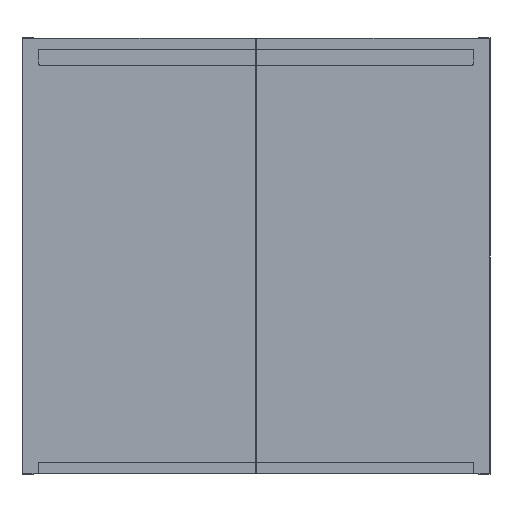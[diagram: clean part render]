
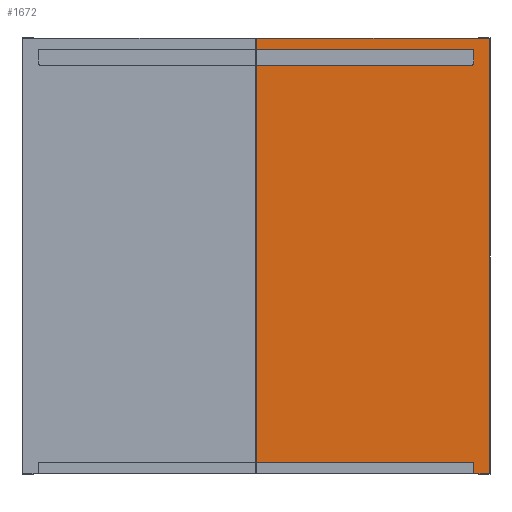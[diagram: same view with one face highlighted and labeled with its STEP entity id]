
A CAD part, front view. The second image highlights one B-rep face of the part: STEP entity #1672.
In plain terms, the highlighted planar face has unit normal (0, -1, 0).
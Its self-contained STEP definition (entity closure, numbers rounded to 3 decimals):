
#23=CIRCLE('',#1777,3.);
#24=CIRCLE('',#1780,3.);
#26=CIRCLE('',#1786,3.);
#101=FACE_OUTER_BOUND('',#189,.T.);
#189=EDGE_LOOP('',(#1320,#1321,#1322,#1323,#1324,#1325,#1326,#1327,#1328,
#1329,#1330,#1331,#1332));
#355=LINE('',#2520,#565);
#357=LINE('',#2525,#567);
#360=LINE('',#2533,#570);
#368=LINE('',#2553,#578);
#369=LINE('',#2557,#579);
#372=LINE('',#2563,#582);
#373=LINE('',#2565,#583);
#374=LINE('',#2567,#584);
#375=LINE('',#2569,#585);
#376=LINE('',#2570,#586);
#565=VECTOR('',#2073,10.);
#567=VECTOR('',#2077,10.);
#570=VECTOR('',#2086,10.);
#578=VECTOR('',#2104,10.);
#579=VECTOR('',#2107,10.);
#582=VECTOR('',#2116,10.);
#583=VECTOR('',#2117,10.);
#584=VECTOR('',#2118,10.);
#585=VECTOR('',#2119,10.);
#586=VECTOR('',#2120,10.);
#729=VERTEX_POINT('',#2516);
#730=VERTEX_POINT('',#2518);
#731=VERTEX_POINT('',#2522);
#732=VERTEX_POINT('',#2524);
#733=VERTEX_POINT('',#2528);
#734=VERTEX_POINT('',#2532);
#740=VERTEX_POINT('',#2549);
#741=VERTEX_POINT('',#2551);
#742=VERTEX_POINT('',#2555);
#743=VERTEX_POINT('',#2556);
#744=VERTEX_POINT('',#2564);
#745=VERTEX_POINT('',#2566);
#746=VERTEX_POINT('',#2568);
#925=EDGE_CURVE('',#729,#730,#355,.T.);
#927=EDGE_CURVE('',#732,#731,#357,.T.);
#929=EDGE_CURVE('',#733,#732,#23,.T.);
#931=EDGE_CURVE('',#734,#733,#360,.T.);
#933=EDGE_CURVE('',#730,#734,#24,.T.);
#941=EDGE_CURVE('',#740,#741,#368,.T.);
#942=EDGE_CURVE('',#742,#743,#369,.T.);
#945=EDGE_CURVE('',#741,#742,#26,.T.);
#946=EDGE_CURVE('',#731,#740,#372,.T.);
#947=EDGE_CURVE('',#743,#744,#373,.T.);
#948=EDGE_CURVE('',#745,#744,#374,.T.);
#949=EDGE_CURVE('',#746,#745,#375,.T.);
#950=EDGE_CURVE('',#746,#729,#376,.T.);
#1320=ORIENTED_EDGE('',*,*,#925,.T.);
#1321=ORIENTED_EDGE('',*,*,#933,.T.);
#1322=ORIENTED_EDGE('',*,*,#931,.T.);
#1323=ORIENTED_EDGE('',*,*,#929,.T.);
#1324=ORIENTED_EDGE('',*,*,#927,.T.);
#1325=ORIENTED_EDGE('',*,*,#946,.T.);
#1326=ORIENTED_EDGE('',*,*,#941,.T.);
#1327=ORIENTED_EDGE('',*,*,#945,.T.);
#1328=ORIENTED_EDGE('',*,*,#942,.T.);
#1329=ORIENTED_EDGE('',*,*,#947,.T.);
#1330=ORIENTED_EDGE('',*,*,#948,.F.);
#1331=ORIENTED_EDGE('',*,*,#949,.F.);
#1332=ORIENTED_EDGE('',*,*,#950,.T.);
#1504=PLANE('',#1787);
#1672=ADVANCED_FACE('',(#101),#1504,.T.);
#1777=AXIS2_PLACEMENT_3D('',#2529,#2081,#2082);
#1780=AXIS2_PLACEMENT_3D('',#2536,#2090,#2091);
#1786=AXIS2_PLACEMENT_3D('',#2561,#2112,#2113);
#1787=AXIS2_PLACEMENT_3D('',#2562,#2114,#2115);
#2073=DIRECTION('',(1.,0.,0.));
#2077=DIRECTION('',(-1.,0.,0.));
#2081=DIRECTION('center_axis',(0.,1.,0.));
#2082=DIRECTION('ref_axis',(0.,0.,1.));
#2086=DIRECTION('',(0.,0.,-1.));
#2090=DIRECTION('center_axis',(0.,1.,0.));
#2091=DIRECTION('ref_axis',(-1.,0.,0.));
#2104=DIRECTION('',(1.,0.,0.));
#2107=DIRECTION('',(0.,0.,-1.));
#2112=DIRECTION('center_axis',(0.,1.,0.));
#2113=DIRECTION('ref_axis',(1.,0.,0.));
#2114=DIRECTION('center_axis',(0.,-1.,0.));
#2115=DIRECTION('ref_axis',(0.,0.,-1.));
#2116=DIRECTION('',(0.,0.,-1.));
#2117=DIRECTION('',(1.,0.,0.));
#2118=DIRECTION('',(0.,0.,-1.));
#2119=DIRECTION('',(1.,0.,0.));
#2120=DIRECTION('',(0.,0.,-1.));
#2516=CARTESIAN_POINT('',(1.,-150.,681.));
#2518=CARTESIAN_POINT('',(346.,-150.,681.));
#2520=CARTESIAN_POINT('',(-173.,-150.,681.));
#2522=CARTESIAN_POINT('',(1.,-150.,656.));
#2524=CARTESIAN_POINT('',(346.,-150.,656.));
#2525=CARTESIAN_POINT('',(173.,-150.,656.));
#2528=CARTESIAN_POINT('',(349.,-150.,659.));
#2529=CARTESIAN_POINT('Origin',(346.,-150.,659.));
#2532=CARTESIAN_POINT('',(349.,-150.,678.));
#2533=CARTESIAN_POINT('',(349.,-150.,688.5));
#2536=CARTESIAN_POINT('Origin',(346.,-150.,678.));
#2549=CARTESIAN_POINT('',(1.,-150.,19.));
#2551=CARTESIAN_POINT('',(346.,-150.,19.));
#2553=CARTESIAN_POINT('',(-173.,-150.,19.));
#2555=CARTESIAN_POINT('',(349.,-150.,16.));
#2556=CARTESIAN_POINT('',(349.,-150.,1.));
#2557=CARTESIAN_POINT('',(349.,-150.,357.5));
#2561=CARTESIAN_POINT('Origin',(346.,-150.,16.));
#2562=CARTESIAN_POINT('Origin',(0.,-150.,699.));
#2563=CARTESIAN_POINT('',(1.,-150.,699.));
#2564=CARTESIAN_POINT('',(374.,-150.,1.));
#2565=CARTESIAN_POINT('',(0.,-150.,1.));
#2566=CARTESIAN_POINT('',(374.,-150.,699.));
#2567=CARTESIAN_POINT('',(374.,-150.,699.));
#2568=CARTESIAN_POINT('',(1.,-150.,699.));
#2569=CARTESIAN_POINT('',(0.,-150.,699.));
#2570=CARTESIAN_POINT('',(1.,-150.,699.));
